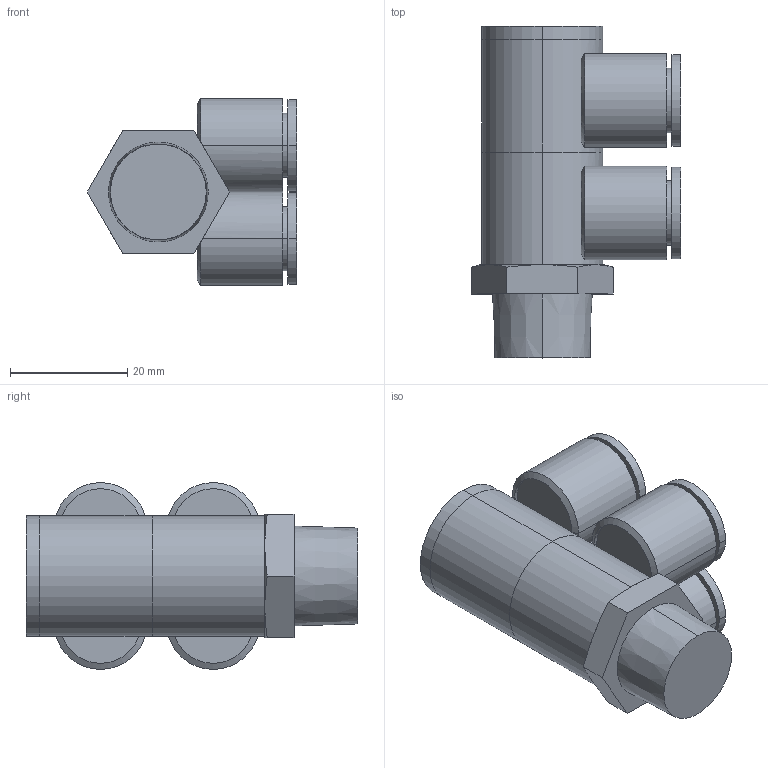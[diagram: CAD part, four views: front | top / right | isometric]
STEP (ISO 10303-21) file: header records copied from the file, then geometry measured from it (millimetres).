
FILE_DESCRIPTION (( 'STEP AP203' ), '1' );
FILE_NAME ('FZD10-03.STEP', '2020-05-11T14:49:19', ( '' ), ( '' ), 'SwSTEP 2.0', 'SolidWorks 2019', '' );
FILE_SCHEMA (( 'CONFIG_CONTROL_DESIGN' ));
Length unit declared in the file: millimetre
Products named in the file (1): FZD10-03
Bounding box: 35.72 x 56.6 x 31.85 mm (x, y, z)
Volume: 24920.6 mm3; surface area: 15623.9 mm2
Topology: 3 solids, 3 shells, 113 faces, 248 edges, 158 vertices
Faces by surface type: cylinder 60, plane 33, cone 20
Entity records: 3893 total; most frequent: CARTESIAN_POINT 1268, DIRECTION 570, ORIENTED_EDGE 496, EDGE_CURVE 248, AXIS2_PLACEMENT_3D 244, VERTEX_POINT 158, EDGE_LOOP 134, CIRCLE 130
